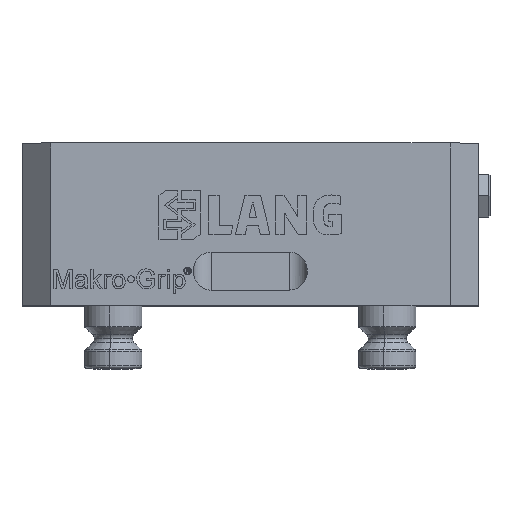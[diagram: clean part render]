
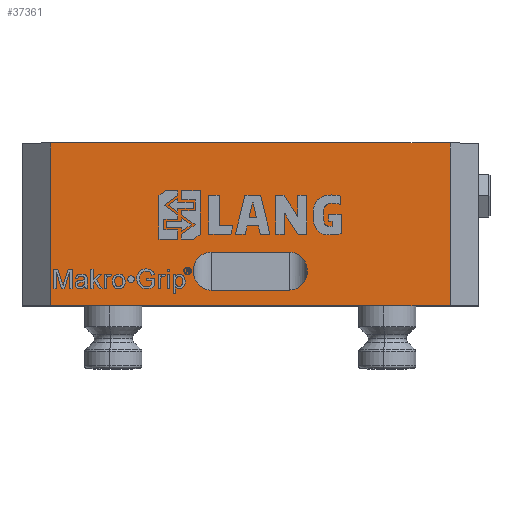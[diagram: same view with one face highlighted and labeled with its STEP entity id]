
A CAD part, top view. The second image highlights one B-rep face of the part: STEP entity #37361.
In plain terms, the highlighted planar face has unit normal (0, 0, 1).
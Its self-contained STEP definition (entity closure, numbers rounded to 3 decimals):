
#592 = CARTESIAN_POINT ( 'NONE',  ( -26.25, 18.743, 62.5 ) ) ;
#1566 = LINE ( 'NONE', #34060, #19735 ) ;
#1776 = LINE ( 'NONE', #5777, #39941 ) ;
#1978 = FACE_OUTER_BOUND ( 'NONE', #28908, .T. ) ;
#2813 = LINE ( 'NONE', #28421, #40064 ) ;
#3217 = EDGE_CURVE ( 'NONE', #4500, #30473, #10694, .T. ) ;
#4500 = VERTEX_POINT ( 'NONE', #32876 ) ;
#4757 = VERTEX_POINT ( 'NONE', #39452 ) ;
#4930 = VERTEX_POINT ( 'NONE', #10938 ) ;
#5280 = ORIENTED_EDGE ( 'NONE', *, *, #26810, .T. ) ;
#5344 = DIRECTION ( 'NONE',  ( -1., 0., 0. ) ) ;
#5777 = CARTESIAN_POINT ( 'NONE',  ( 20., 5.441, 62.5 ) ) ;
#7881 = LINE ( 'NONE', #29713, #45074 ) ;
#7962 = CARTESIAN_POINT ( 'NONE',  ( 80., 18.743, 62.5 ) ) ;
#8209 = DIRECTION ( 'NONE',  ( -1., 0., 0. ) ) ;
#10694 = LINE ( 'NONE', #21825, #46871 ) ;
#10938 = CARTESIAN_POINT ( 'NONE',  ( -13.75, 5.441, 62.5 ) ) ;
#11272 = CARTESIAN_POINT ( 'NONE',  ( 26.25, 18.743, 62.5 ) ) ;
#11893 = ORIENTED_EDGE ( 'NONE', *, *, #29442, .T. ) ;
#11971 = CARTESIAN_POINT ( 'NONE',  ( 13.75, 5.441, 62.5 ) ) ;
#12026 =( BOUNDED_CURVE ( )  B_SPLINE_CURVE ( 3, ( #11971, #37336, #11272, #44504 ),
 .UNSPECIFIED., .F., .F. ) 
 B_SPLINE_CURVE_WITH_KNOTS ( ( 4, 4 ),
 ( 0., 3.142 ),
 .UNSPECIFIED. ) 
 CURVE ( )  GEOMETRIC_REPRESENTATION_ITEM ( )  RATIONAL_B_SPLINE_CURVE ( ( 1., 0.333, 0.333, 1. ) ) 
 REPRESENTATION_ITEM ( '' )  );
#12066 = CARTESIAN_POINT ( 'NONE',  ( 70., 57., 62.5 ) ) ;
#13117 = VERTEX_POINT ( 'NONE', #30123 ) ;
#13320 = CARTESIAN_POINT ( 'NONE',  ( -70., 0., 62.5 ) ) ;
#14481 = DIRECTION ( 'NONE',  ( -1., 0., 0. ) ) ;
#15034 = CARTESIAN_POINT ( 'NONE',  ( -26.25, 5.441, 62.5 ) ) ;
#15771 = VERTEX_POINT ( 'NONE', #28085 ) ;
#16174 = AXIS2_PLACEMENT_3D ( 'NONE', #46537, #28546, #14481 ) ;
#16436 = ORIENTED_EDGE ( 'NONE', *, *, #22118, .F. ) ;
#16847 = EDGE_CURVE ( 'NONE', #4757, #27406, #12026, .T. ) ;
#17139 = VECTOR ( 'NONE', #44044, 1000. ) ;
#18532 = ORIENTED_EDGE ( 'NONE', *, *, #3217, .T. ) ;
#19055 =( BOUNDED_CURVE ( )  B_SPLINE_CURVE ( 3, ( #33320, #592, #15034, #40420 ),
 .UNSPECIFIED., .F., .F. ) 
 B_SPLINE_CURVE_WITH_KNOTS ( ( 4, 4 ),
 ( 3.142, 6.283 ),
 .UNSPECIFIED. ) 
 CURVE ( )  GEOMETRIC_REPRESENTATION_ITEM ( )  RATIONAL_B_SPLINE_CURVE ( ( 1., 0.333, 0.333, 1. ) ) 
 REPRESENTATION_ITEM ( '' )  );
#19735 = VECTOR ( 'NONE', #8209, 1000. ) ;
#20999 = EDGE_CURVE ( 'NONE', #15771, #4930, #19055, .T. ) ;
#21825 = CARTESIAN_POINT ( 'NONE',  ( 70., 57., 62.5 ) ) ;
#22118 = EDGE_CURVE ( 'NONE', #4500, #30246, #7881, .T. ) ;
#26024 = DIRECTION ( 'NONE',  ( 0., -1., 0. ) ) ;
#26810 = EDGE_CURVE ( 'NONE', #4757, #4930, #1776, .T. ) ;
#27406 = VERTEX_POINT ( 'NONE', #43600 ) ;
#27843 = PLANE ( 'NONE',  #16174 ) ;
#28043 = ORIENTED_EDGE ( 'NONE', *, *, #16847, .F. ) ;
#28085 = CARTESIAN_POINT ( 'NONE',  ( -13.75, 18.743, 62.5 ) ) ;
#28421 = CARTESIAN_POINT ( 'NONE',  ( -70., 0., 62.5 ) ) ;
#28546 = DIRECTION ( 'NONE',  ( 0., 0., -1. ) ) ;
#28908 = EDGE_LOOP ( 'NONE', ( #29339, #40693, #16436, #18532 ) ) ;
#29339 = ORIENTED_EDGE ( 'NONE', *, *, #43832, .T. ) ;
#29442 = EDGE_CURVE ( 'NONE', #15771, #27406, #40453, .T. ) ;
#29713 = CARTESIAN_POINT ( 'NONE',  ( 80., 0., 62.5 ) ) ;
#29930 = DIRECTION ( 'NONE',  ( -1., 0., 0. ) ) ;
#30123 = CARTESIAN_POINT ( 'NONE',  ( -70., 57., 62.5 ) ) ;
#30246 = VERTEX_POINT ( 'NONE', #13320 ) ;
#30473 = VERTEX_POINT ( 'NONE', #12066 ) ;
#32055 = DIRECTION ( 'NONE',  ( 0., 1., 0. ) ) ;
#32876 = CARTESIAN_POINT ( 'NONE',  ( 70., 0., 62.5 ) ) ;
#33320 = CARTESIAN_POINT ( 'NONE',  ( -13.75, 18.743, 62.5 ) ) ;
#34060 = CARTESIAN_POINT ( 'NONE',  ( 80., 57., 62.5 ) ) ;
#34944 = FACE_BOUND ( 'NONE', #42204, .T. ) ;
#37087 = ORIENTED_EDGE ( 'NONE', *, *, #20999, .F. ) ;
#37336 = CARTESIAN_POINT ( 'NONE',  ( 26.25, 5.441, 62.5 ) ) ;
#37361 = ADVANCED_FACE ( 'NONE', ( #34944, #1978 ), #27843, .F. ) ;
#39452 = CARTESIAN_POINT ( 'NONE',  ( 13.75, 5.441, 62.5 ) ) ;
#39941 = VECTOR ( 'NONE', #5344, 1000. ) ;
#40064 = VECTOR ( 'NONE', #26024, 1000. ) ;
#40420 = CARTESIAN_POINT ( 'NONE',  ( -13.75, 5.441, 62.5 ) ) ;
#40453 = LINE ( 'NONE', #7962, #17139 ) ;
#40693 = ORIENTED_EDGE ( 'NONE', *, *, #41316, .T. ) ;
#41316 = EDGE_CURVE ( 'NONE', #13117, #30246, #2813, .T. ) ;
#42204 = EDGE_LOOP ( 'NONE', ( #37087, #11893, #28043, #5280 ) ) ;
#43600 = CARTESIAN_POINT ( 'NONE',  ( 13.75, 18.743, 62.5 ) ) ;
#43832 = EDGE_CURVE ( 'NONE', #30473, #13117, #1566, .T. ) ;
#44044 = DIRECTION ( 'NONE',  ( 1., 0., 0. ) ) ;
#44504 = CARTESIAN_POINT ( 'NONE',  ( 13.75, 18.743, 62.5 ) ) ;
#45074 = VECTOR ( 'NONE', #29930, 1000. ) ;
#46537 = CARTESIAN_POINT ( 'NONE',  ( 80., 0., 62.5 ) ) ;
#46871 = VECTOR ( 'NONE', #32055, 1000. ) ;
